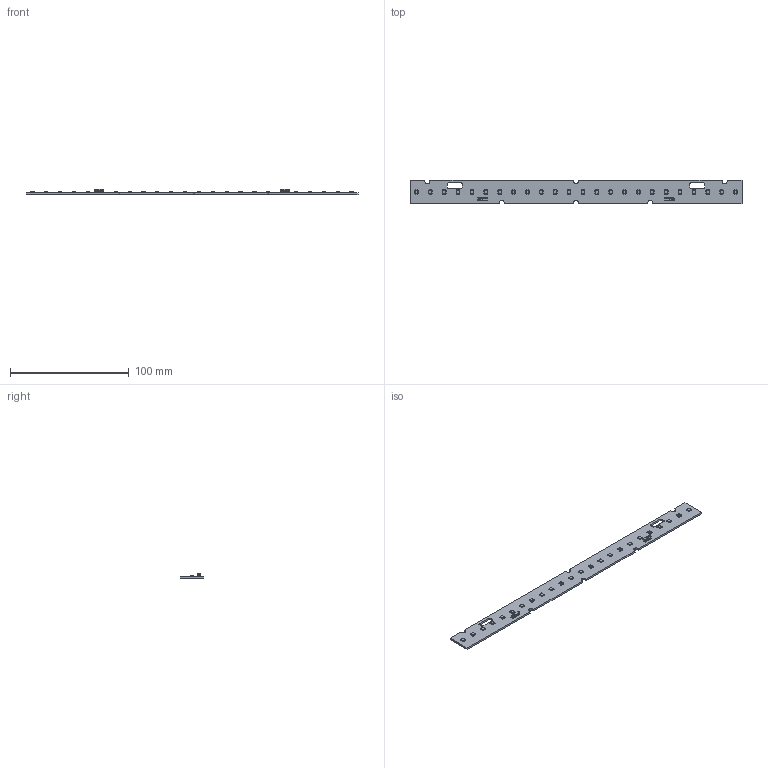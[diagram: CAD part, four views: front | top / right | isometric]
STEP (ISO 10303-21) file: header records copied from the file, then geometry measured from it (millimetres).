
FILE_DESCRIPTION(/* description */ (''),/* implementation_level */ '2;1');
FILE_NAME(/* name */ 'C:\Data\Vault\LE-TPD\9290 039 97700_Fortimo LED Strip 1ft MF HE FC HV6\Fortimo LED Strip 1ft MF HE FC HV6 2024-07-23.stp',/* time_stamp */ '2024-07-24T13:05:09+02:00',/* author */ ('600010516'),/* organization */ (''),/* preprocessor_version */ 'ST-DEVELOPER v18.1',/* originating_system */ 'Autodesk Inventor 2022',/* authorisation */ '');
FILE_SCHEMA (('AUTOMOTIVE_DESIGN { 1 0 10303 214 3 1 1 }'));
Products named in the file (1): Fortimo LED Strip 1ft MF HE FC HV6 2024-07-23
Bounding box: 279.2 x 20 x 4.3 mm (x, y, z)
Volume: 8841.1 mm3; surface area: 12646 mm2
Topology: 1 solids, 97 shells, 4100 faces, 11344 edges, 7554 vertices
Faces by surface type: plane 2898, cylinder 1026, cone 96, bspline 80
Entity records: 139275 total; most frequent: CARTESIAN_POINT 28507, ORIENTED_EDGE 22680, DIRECTION 21392, EDGE_CURVE 11340, LINE 8878, VECTOR 8878, VERTEX_POINT 7554, AXIS2_PLACEMENT_3D 6257
